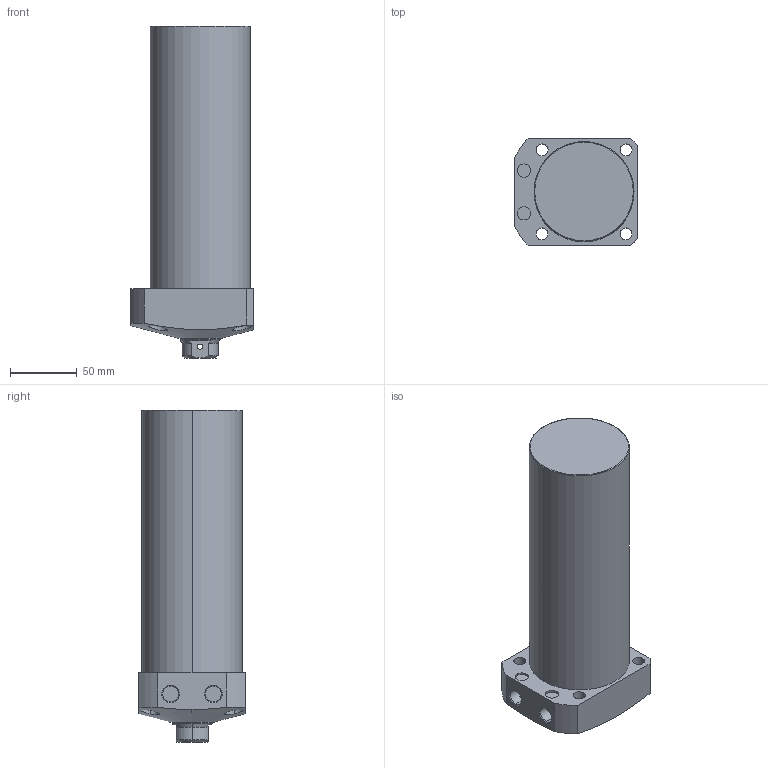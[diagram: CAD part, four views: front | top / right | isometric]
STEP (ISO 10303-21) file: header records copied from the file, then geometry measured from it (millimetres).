
FILE_DESCRIPTION (( 'STEP AP203' ), '1' );
FILE_NAME ('CLL-075CB-160.STEP', '2019-12-24T00:27:28', ( '' ), ( '' ), 'SwSTEP 2.0', 'SolidWorks 2015', '' );
FILE_SCHEMA (( 'CONFIG_CONTROL_DESIGN' ));
Length unit declared in the file: millimetre
Products named in the file (1): CLL-075CB-160
Bounding box: 92 x 80 x 249 mm (x, y, z)
Volume: 1089249.8 mm3; surface area: 78830.2 mm2
Topology: 1 solids, 1 shells, 78 faces, 183 edges, 116 vertices
Faces by surface type: cylinder 39, plane 22, cone 15, torus 2
Entity records: 2862 total; most frequent: CARTESIAN_POINT 955, DIRECTION 396, ORIENTED_EDGE 362, EDGE_CURVE 181, AXIS2_PLACEMENT_3D 164, VERTEX_POINT 116, EDGE_LOOP 101, CIRCLE 85
